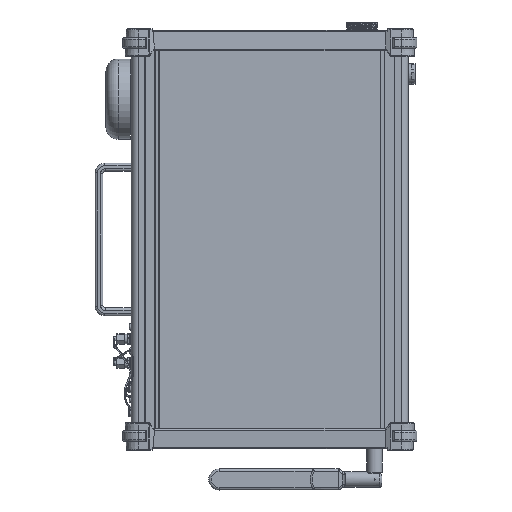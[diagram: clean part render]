
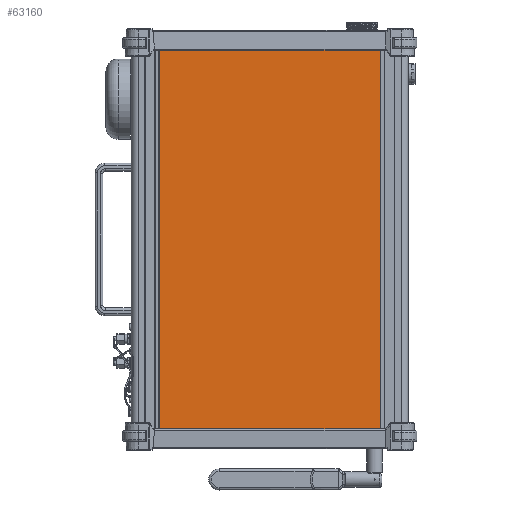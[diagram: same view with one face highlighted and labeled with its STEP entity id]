
A CAD part, front view. The second image highlights one B-rep face of the part: STEP entity #63160.
In plain terms, the highlighted planar face has unit normal (0, -1, 0).
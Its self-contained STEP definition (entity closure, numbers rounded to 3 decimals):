
#3168=PLANE('',#67187);
#4691=FACE_OUTER_BOUND('',#8400,.T.);
#8400=EDGE_LOOP('',(#40552,#40553,#40554,#40555));
#12760=LINE('',#94129,#17047);
#12761=LINE('',#94132,#17048);
#12762=LINE('',#94134,#17049);
#12763=LINE('',#94135,#17050);
#17047=VECTOR('',#75484,327.);
#17048=VECTOR('',#75487,183.);
#17049=VECTOR('',#75488,183.);
#17050=VECTOR('',#75489,327.);
#24783=VERTEX_POINT('',#94125);
#24784=VERTEX_POINT('',#94127);
#24785=VERTEX_POINT('',#94131);
#24786=VERTEX_POINT('',#94133);
#30977=EDGE_CURVE('',#24783,#24784,#12760,.T.);
#30978=EDGE_CURVE('',#24785,#24783,#12761,.T.);
#30979=EDGE_CURVE('',#24786,#24784,#12762,.T.);
#30980=EDGE_CURVE('',#24785,#24786,#12763,.T.);
#40552=ORIENTED_EDGE('',*,*,#30978,.T.);
#40553=ORIENTED_EDGE('',*,*,#30977,.T.);
#40554=ORIENTED_EDGE('',*,*,#30979,.F.);
#40555=ORIENTED_EDGE('',*,*,#30980,.F.);
#63160=ADVANCED_FACE('',(#4691),#3168,.T.);
#67187=AXIS2_PLACEMENT_3D('',#94130,#75485,#75486);
#75484=DIRECTION('',(0.,0.,-1.));
#75485=DIRECTION('center_axis',(0.,-1.,0.));
#75486=DIRECTION('ref_axis',(-1.,0.,0.));
#75487=DIRECTION('',(-1.,0.,0.));
#75488=DIRECTION('',(-1.,0.,0.));
#75489=DIRECTION('',(0.,0.,-1.));
#94125=CARTESIAN_POINT('',(-348.439,-2.086,924.436));
#94127=CARTESIAN_POINT('',(-348.439,-2.086,597.436));
#94129=CARTESIAN_POINT('',(-348.439,-2.086,924.436));
#94130=CARTESIAN_POINT('Origin',(-165.439,-2.086,924.436));
#94131=CARTESIAN_POINT('',(-165.439,-2.086,924.436));
#94132=CARTESIAN_POINT('',(-165.439,-2.086,924.436));
#94133=CARTESIAN_POINT('',(-165.439,-2.086,597.436));
#94134=CARTESIAN_POINT('',(-165.439,-2.086,597.436));
#94135=CARTESIAN_POINT('',(-165.439,-2.086,924.436));
